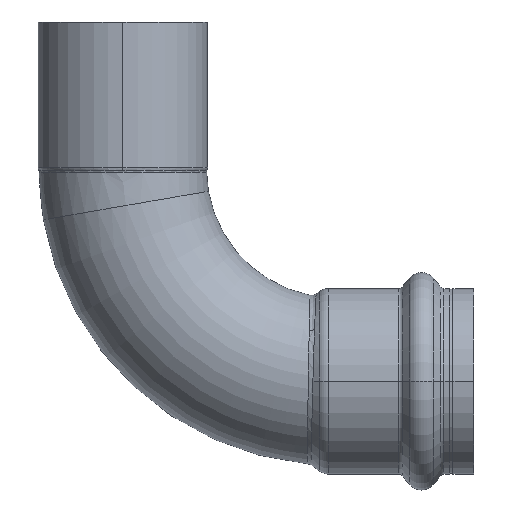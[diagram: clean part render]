
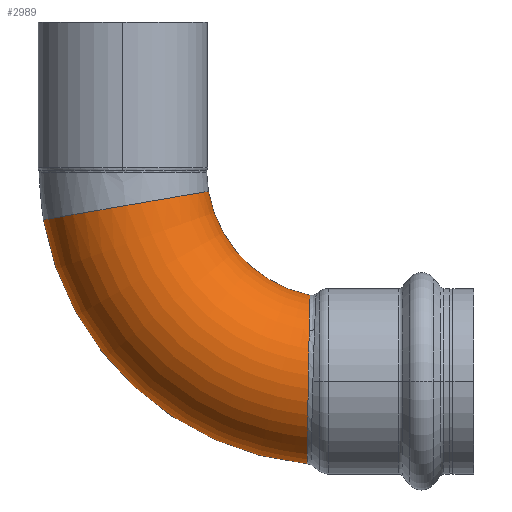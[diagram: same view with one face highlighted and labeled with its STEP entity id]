
A CAD part, top view. The second image highlights one B-rep face of the part: STEP entity #2989.
In plain terms, the highlighted toroidal (fillet/blend) face has major radius 52.5 mm and minor radius 20.75 mm.
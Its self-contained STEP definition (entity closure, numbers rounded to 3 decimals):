
#20 = CARTESIAN_POINT ( 'NONE',  ( 46.314, 18.841, 9.833 ) ) ;
#67 = AXIS2_PLACEMENT_3D ( 'NONE', #2142, #272, #2457 ) ;
#178 = ORIENTED_EDGE ( 'NONE', *, *, #3854, .T. ) ;
#190 = CARTESIAN_POINT ( 'NONE',  ( 45.742, -15.078, 13.898 ) ) ;
#203 = CARTESIAN_POINT ( 'NONE',  ( 45.928, -1.791, 20.64 ) ) ;
#215 = CARTESIAN_POINT ( 'NONE',  ( 46.151, 11.015, 17.885 ) ) ;
#222 = CARTESIAN_POINT ( 'NONE',  ( 21.217, 47.074, 0. ) ) ;
#232 = ORIENTED_EDGE ( 'NONE', *, *, #3351, .T. ) ;
#272 = DIRECTION ( 'NONE',  ( 0., 0., -1. ) ) ;
#310 = VERTEX_POINT ( 'NONE', #1557 ) ;
#344 = ORIENTED_EDGE ( 'NONE', *, *, #1085, .F. ) ;
#357 = CARTESIAN_POINT ( 'NONE',  ( 46.348, 20.365, 6.475 ) ) ;
#359 = DIRECTION ( 'NONE',  ( -0.171, 0.985, 0. ) ) ;
#460 = CARTESIAN_POINT ( 'NONE',  ( 45.681, -20.102, 3.801 ) ) ;
#543 = CARTESIAN_POINT ( 'NONE',  ( 45.755, -14.079, 14.928 ) ) ;
#554 = VERTEX_POINT ( 'NONE', #2695 ) ;
#555 = CARTESIAN_POINT ( 'NONE',  ( 45.958, 0.104, 20.769 ) ) ;
#574 = CARTESIAN_POINT ( 'NONE',  ( 46.175, 12.229, 17.12 ) ) ;
#604 = B_SPLINE_CURVE_WITH_KNOTS ( 'NONE', 3,
 ( #2506, #681, #2771, #1002, #3029, #1318, #3317, #1609, #3608, #1903, #20, #2218, #357, #2518, #691, #2778, #1015, #3042, #1327, #3328 ),
 .UNSPECIFIED., .F., .F.,
 ( 4, 2, 2, 2, 2, 2, 2, 2, 2, 4 ),
 ( 0.061, 0.063, 0.066, 0.068, 0.069, 0.071, 0.076, 0.077, 0.078, 0.081 ),
 .UNSPECIFIED. ) ;
#681 = CARTESIAN_POINT ( 'NONE',  ( 46.196, 13.287, 16.365 ) ) ;
#691 = CARTESIAN_POINT ( 'NONE',  ( 46.362, 20.94, 4.081 ) ) ;
#715 = VERTEX_POINT ( 'NONE', #1717 ) ;
#791 = CARTESIAN_POINT ( 'NONE',  ( 45.688, -19.519, 6.096 ) ) ;
#873 = CARTESIAN_POINT ( 'NONE',  ( 45.778, -12.291, 16.484 ) ) ;
#884 = CARTESIAN_POINT ( 'NONE',  ( 45.997, 2.471, 20.654 ) ) ;
#1002 = CARTESIAN_POINT ( 'NONE',  ( 46.235, 15.155, 14.734 ) ) ;
#1015 = CARTESIAN_POINT ( 'NONE',  ( 46.366, 21.151, 2.858 ) ) ;
#1085 = EDGE_CURVE ( 'NONE', #715, #1886, #1999, .T. ) ;
#1110 = CARTESIAN_POINT ( 'NONE',  ( 45.693, -19.051, 7.445 ) ) ;
#1124 = AXIS2_PLACEMENT_3D ( 'NONE', #2910, #3481, #1783 ) ;
#1181 = CARTESIAN_POINT ( 'NONE',  ( 45.799, -10.722, 17.553 ) ) ;
#1191 = CARTESIAN_POINT ( 'NONE',  ( 46.021, 3.89, 20.465 ) ) ;
#1318 = CARTESIAN_POINT ( 'NONE',  ( 46.269, 16.803, 12.912 ) ) ;
#1326 = CARTESIAN_POINT ( 'NONE',  ( 52.5, 52.5, 0. ) ) ;
#1327 = CARTESIAN_POINT ( 'NONE',  ( 46.371, 21.347, 0.816 ) ) ;
#1420 = CARTESIAN_POINT ( 'NONE',  ( 45.702, -18.294, 9.208 ) ) ;
#1471 = CARTESIAN_POINT ( 'NONE',  ( 46.183, 12.617, 16.843 ) ) ;
#1483 = CARTESIAN_POINT ( 'NONE',  ( 45.816, -9.48, 18.275 ) ) ;
#1498 = CARTESIAN_POINT ( 'NONE',  ( 46.054, 5.765, 20.078 ) ) ;
#1502 = ORIENTED_EDGE ( 'NONE', *, *, #3640, .F. ) ;
#1557 = CARTESIAN_POINT ( 'NONE',  ( 46.371, 21.347, 0. ) ) ;
#1576 = TOROIDAL_SURFACE ( 'NONE', #1124, 52.5, 20.75 ) ;
#1609 = CARTESIAN_POINT ( 'NONE',  ( 46.295, 17.994, 11.249 ) ) ;
#1616 = CIRCLE ( 'NONE', #1845, 73.25 ) ;
#1620 = DIRECTION ( 'NONE',  ( -1., 0., 0. ) ) ;
#1712 = CARTESIAN_POINT ( 'NONE',  ( 45.72, -16.858, 11.662 ) ) ;
#1717 = CARTESIAN_POINT ( 'NONE',  ( -19.673, 39.983, 0. ) ) ;
#1783 = DIRECTION ( 'NONE',  ( -1., 0., 0. ) ) ;
#1786 = CARTESIAN_POINT ( 'NONE',  ( 45.871, -5.557, 19.974 ) ) ;
#1794 = CARTESIAN_POINT ( 'NONE',  ( 46.102, 8.458, 19.171 ) ) ;
#1845 = AXIS2_PLACEMENT_3D ( 'NONE', #1326, #3325, #1620 ) ;
#1886 = VERTEX_POINT ( 'NONE', #222 ) ;
#1903 = CARTESIAN_POINT ( 'NONE',  ( 46.31, 18.638, 10.196 ) ) ;
#1926 = CIRCLE ( 'NONE', #67, 31.75 ) ;
#1977 = EDGE_LOOP ( 'NONE', ( #1502, #2801, #232, #178, #344 ) ) ;
#1999 = CIRCLE ( 'NONE', #2399, 20.75 ) ;
#2011 = CARTESIAN_POINT ( 'NONE',  ( 45.738, -15.397, 13.538 ) ) ;
#2080 = CARTESIAN_POINT ( 'NONE',  ( 45.914, -2.739, 20.518 ) ) ;
#2099 = CARTESIAN_POINT ( 'NONE',  ( 46.143, 10.597, 18.123 ) ) ;
#2142 = CARTESIAN_POINT ( 'NONE',  ( 52.5, 52.5, 0. ) ) ;
#2218 = CARTESIAN_POINT ( 'NONE',  ( 46.335, 19.79, 8.004 ) ) ;
#2220 = CARTESIAN_POINT ( 'NONE',  ( 0.772, 43.529, 0. ) ) ;
#2318 = CARTESIAN_POINT ( 'NONE',  ( 45.678, -20.365, 1.916 ) ) ;
#2385 = CARTESIAN_POINT ( 'NONE',  ( 45.75, -14.419, 14.594 ) ) ;
#2399 = AXIS2_PLACEMENT_3D ( 'NONE', #2220, #359, #2520 ) ;
#2404 = CARTESIAN_POINT ( 'NONE',  ( 45.936, -1.317, 20.684 ) ) ;
#2413 = CARTESIAN_POINT ( 'NONE',  ( 46.167, 11.83, 17.383 ) ) ;
#2457 = DIRECTION ( 'NONE',  ( -1., 0., 0. ) ) ;
#2500 = EDGE_CURVE ( 'NONE', #554, #2841, #3510, .T. ) ;
#2506 = CARTESIAN_POINT ( 'NONE',  ( 46.183, 12.617, 16.843 ) ) ;
#2518 = CARTESIAN_POINT ( 'NONE',  ( 46.36, 20.854, 4.484 ) ) ;
#2520 = DIRECTION ( 'NONE',  ( -0.985, -0.171, 0. ) ) ;
#2601 = CARTESIAN_POINT ( 'NONE',  ( 45.683, -19.906, 4.728 ) ) ;
#2659 = CARTESIAN_POINT ( 'NONE',  ( 45.768, -13.03, 15.892 ) ) ;
#2668 = CARTESIAN_POINT ( 'NONE',  ( 45.973, 1.051, 20.762 ) ) ;
#2677 = CARTESIAN_POINT ( 'NONE',  ( 46.183, 12.617, 16.843 ) ) ;
#2695 = CARTESIAN_POINT ( 'NONE',  ( 45.677, -20.432, 0. ) ) ;
#2771 = CARTESIAN_POINT ( 'NONE',  ( 46.209, 13.929, 15.848 ) ) ;
#2778 = CARTESIAN_POINT ( 'NONE',  ( 46.365, 21.089, 3.268 ) ) ;
#2801 = ORIENTED_EDGE ( 'NONE', *, *, #2500, .T. ) ;
#2841 = VERTEX_POINT ( 'NONE', #1471 ) ;
#2851 = CARTESIAN_POINT ( 'NONE',  ( 45.689, -19.373, 6.548 ) ) ;
#2910 = CARTESIAN_POINT ( 'NONE',  ( 52.5, 52.5, 0. ) ) ;
#2912 = CARTESIAN_POINT ( 'NONE',  ( 45.793, -11.121, 17.295 ) ) ;
#2926 = CARTESIAN_POINT ( 'NONE',  ( 46.005, 2.944, 20.602 ) ) ;
#2989 = ADVANCED_FACE ( 'NONE', ( #3843 ), #1576, .T. ) ;
#3029 = CARTESIAN_POINT ( 'NONE',  ( 46.247, 15.73, 14.147 ) ) ;
#3042 = CARTESIAN_POINT ( 'NONE',  ( 46.37, 21.298, 1.633 ) ) ;
#3120 = CARTESIAN_POINT ( 'NONE',  ( 45.677, -20.432, 0. ) ) ;
#3133 = CARTESIAN_POINT ( 'NONE',  ( 45.695, -18.873, 7.891 ) ) ;
#3197 = CARTESIAN_POINT ( 'NONE',  ( 45.81, -9.902, 18.042 ) ) ;
#3208 = CARTESIAN_POINT ( 'NONE',  ( 46.029, 4.364, 20.38 ) ) ;
#3317 = CARTESIAN_POINT ( 'NONE',  ( 46.28, 17.302, 12.265 ) ) ;
#3325 = DIRECTION ( 'NONE',  ( 0., 0., -1. ) ) ;
#3328 = CARTESIAN_POINT ( 'NONE',  ( 46.371, 21.347, 0. ) ) ;
#3351 = EDGE_CURVE ( 'NONE', #2841, #310, #604, .T. ) ;
#3396 = CARTESIAN_POINT ( 'NONE',  ( 45.677, -20.432, 0.952 ) ) ;
#3414 = CARTESIAN_POINT ( 'NONE',  ( 45.708, -17.852, 10.049 ) ) ;
#3481 = DIRECTION ( 'NONE',  ( 0., 0., -1. ) ) ;
#3483 = CARTESIAN_POINT ( 'NONE',  ( 45.845, -7.347, 19.356 ) ) ;
#3497 = CARTESIAN_POINT ( 'NONE',  ( 46.07, 6.677, 19.816 ) ) ;
#3510 = B_SPLINE_CURVE_WITH_KNOTS ( 'NONE', 3,
 ( #3120, #3396, #2318, #460, #2601, #791, #2851, #1110, #3133, #1420, #3414, #1712, #3698, #2011, #190, #2385, #543, #2659, #873, #2912, #1181, #3197, #1483, #3483, #1786, #3763, #2080, #203, #2404, #555, #2668, #884, #2926, #1191, #3208, #1498, #3497, #1794, #3777, #2099, #215, #2413, #574, #2677 ),
 .UNSPECIFIED., .F., .F.,
 ( 4, 2, 2, 2, 2, 2, 2, 2, 2, 2, 2, 2, 2, 2, 2, 2, 2, 2, 2, 2, 2, 4 ),
 ( 0.015, 0.018, 0.02, 0.022, 0.023, 0.026, 0.029, 0.031, 0.032, 0.035, 0.036, 0.038, 0.043, 0.045, 0.046, 0.049, 0.051, 0.052, 0.055, 0.058, 0.059, 0.061 ),
 .UNSPECIFIED. ) ;
#3608 = CARTESIAN_POINT ( 'NONE',  ( 46.3, 18.215, 10.903 ) ) ;
#3640 = EDGE_CURVE ( 'NONE', #554, #715, #1616, .T. ) ;
#3698 = CARTESIAN_POINT ( 'NONE',  ( 45.727, -16.307, 12.434 ) ) ;
#3763 = CARTESIAN_POINT ( 'NONE',  ( 45.906, -3.214, 20.44 ) ) ;
#3777 = CARTESIAN_POINT ( 'NONE',  ( 46.119, 9.326, 18.789 ) ) ;
#3843 = FACE_OUTER_BOUND ( 'NONE', #1977, .T. ) ;
#3854 = EDGE_CURVE ( 'NONE', #310, #1886, #1926, .T. ) ;
